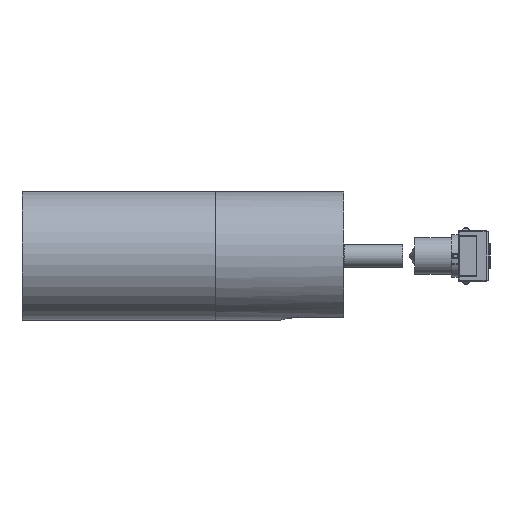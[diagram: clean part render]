
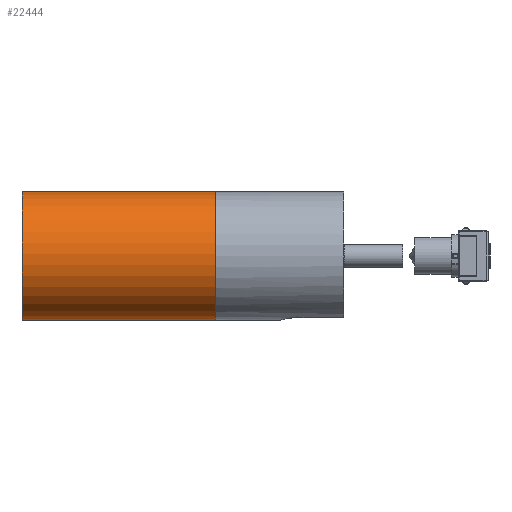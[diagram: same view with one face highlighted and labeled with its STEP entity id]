
A CAD part, left-side view. The second image highlights one B-rep face of the part: STEP entity #22444.
In plain terms, the highlighted cylindrical face has radius 14 mm (diameter 28 mm), a full revolution.
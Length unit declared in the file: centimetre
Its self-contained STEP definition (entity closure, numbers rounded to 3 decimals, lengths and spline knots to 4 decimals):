
#998=CIRCLE('',#23747,1.4);
#1000=CIRCLE('',#23750,1.4);
#1597=CYLINDRICAL_SURFACE('',#23752,1.4);
#1874=FACE_OUTER_BOUND('',#3139,.T.);
#3139=EDGE_LOOP('',(#14219,#14220,#14221,#14222));
#4435=LINE('',#32255,#6525);
#6525=VECTOR('',#25827,1.4);
#8652=VERTEX_POINT('',#32245);
#8654=VERTEX_POINT('',#32250);
#10819=EDGE_CURVE('',#8652,#8652,#998,.T.);
#10821=EDGE_CURVE('',#8654,#8654,#1000,.T.);
#10823=EDGE_CURVE('',#8652,#8654,#4435,.T.);
#14219=ORIENTED_EDGE('',*,*,#10819,.F.);
#14220=ORIENTED_EDGE('',*,*,#10823,.T.);
#14221=ORIENTED_EDGE('',*,*,#10821,.T.);
#14222=ORIENTED_EDGE('',*,*,#10823,.F.);
#22444=ADVANCED_FACE('',(#1874),#1597,.T.);
#23747=AXIS2_PLACEMENT_3D('',#32246,#25815,#25816);
#23750=AXIS2_PLACEMENT_3D('',#32251,#25821,#25822);
#23752=AXIS2_PLACEMENT_3D('',#32254,#25825,#25826);
#25815=DIRECTION('center_axis',(0.,-1.,0.));
#25816=DIRECTION('ref_axis',(0.664,0.,0.748));
#25821=DIRECTION('center_axis',(0.,-1.,0.));
#25822=DIRECTION('ref_axis',(0.664,0.,0.748));
#25825=DIRECTION('center_axis',(0.,-1.,0.));
#25826=DIRECTION('ref_axis',(0.664,0.,0.748));
#25827=DIRECTION('',(0.,1.,0.));
#32245=CARTESIAN_POINT('',(-0.9294,5.6343,-1.0469));
#32246=CARTESIAN_POINT('Origin',(0.,5.6343,
0.0001));
#32250=CARTESIAN_POINT('',(-0.9294,9.8343,-1.0469));
#32251=CARTESIAN_POINT('Origin',(0.,9.8343,
0.0001));
#32254=CARTESIAN_POINT('Origin',(0.,6.5343,
0.0001));
#32255=CARTESIAN_POINT('',(-0.9294,6.5343,-1.0469));
